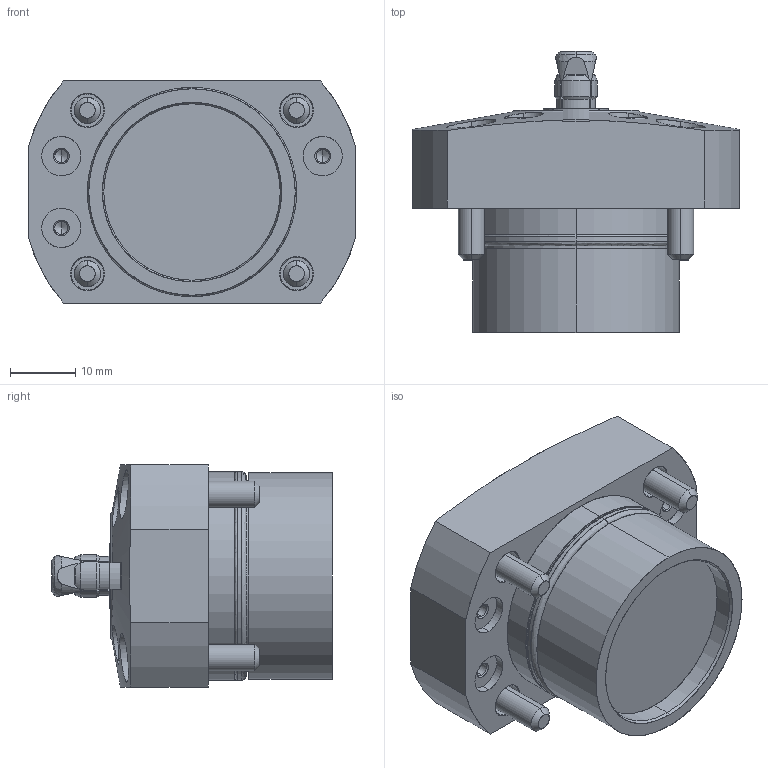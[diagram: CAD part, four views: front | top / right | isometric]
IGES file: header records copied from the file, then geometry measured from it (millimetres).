
Start section: SolidWorks IGES file using analytic representation for surfaces
Global section: file name: L:\電子カタログ-3Ｄ\SFH\ｱｾﾝﾌﾞﾘ\SFH1070.IGS; native system: SolidWorks 2010; preprocessor: SolidWorks 2010; author: D214; date: 101102.082417; units: millimetre
Bounding box: 50 x 43 x 34 mm (x, y, z)
Surface area: 15360.1 mm2 (no closed solid volume)
Topology: 0 solids, 0 shells, 486 faces, 6199 edges, 6175 vertices
Faces by surface type: revolution 278, bspline 208
